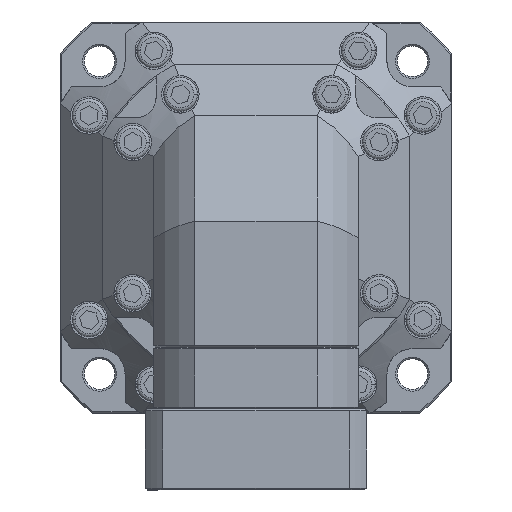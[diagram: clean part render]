
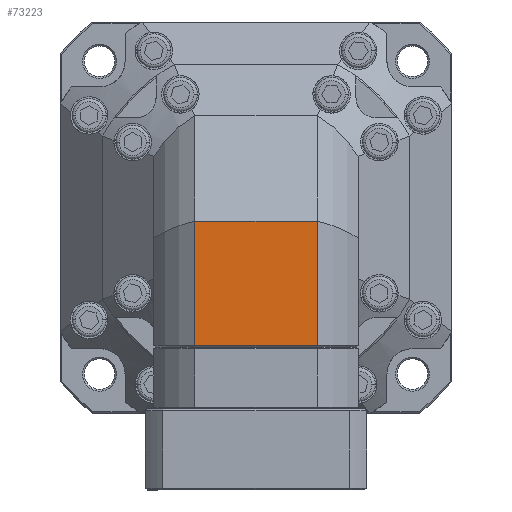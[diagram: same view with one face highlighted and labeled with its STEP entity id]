
A CAD part, front view. The second image highlights one B-rep face of the part: STEP entity #73223.
In plain terms, the highlighted planar face has unit normal (0, 1, 0).
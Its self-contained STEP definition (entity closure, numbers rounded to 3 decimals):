
#484 = CARTESIAN_POINT ( 'NONE',  ( 0., -173.611, -1. ) ) ;
#2095 = CARTESIAN_POINT ( 'NONE',  ( 18.028, -173.611, -37.5 ) ) ;
#4874 = EDGE_CURVE ( 'NONE', #100930, #43170, #56783, .T. ) ;
#5014 = LINE ( 'NONE', #95278, #50161 ) ;
#9976 = LINE ( 'NONE', #107800, #97521 ) ;
#14312 = CARTESIAN_POINT ( 'NONE',  ( -18.028, -173.611, -1. ) ) ;
#14617 = CARTESIAN_POINT ( 'NONE',  ( 18.028, -173.611, -1. ) ) ;
#15503 = AXIS2_PLACEMENT_3D ( 'NONE', #16498, #75833, #25033 ) ;
#16498 = CARTESIAN_POINT ( 'NONE',  ( -18.028, -173.611, -37.5 ) ) ;
#17538 = DIRECTION ( 'NONE',  ( 1., 0., 0. ) ) ;
#23334 = DIRECTION ( 'NONE',  ( 1., 0., 0. ) ) ;
#25033 = DIRECTION ( 'NONE',  ( 1., 0., 0. ) ) ;
#31056 = VECTOR ( 'NONE', #98974, 1000. ) ;
#33321 = VERTEX_POINT ( 'NONE', #90881 ) ;
#34210 = VECTOR ( 'NONE', #17538, 1000. ) ;
#38856 = ORIENTED_EDGE ( 'NONE', *, *, #68430, .T. ) ;
#43170 = VERTEX_POINT ( 'NONE', #14617 ) ;
#44597 = DIRECTION ( 'NONE',  ( 0., 0., 1. ) ) ;
#48390 = EDGE_CURVE ( 'NONE', #33321, #60731, #9976, .T. ) ;
#50114 = FACE_OUTER_BOUND ( 'NONE', #78677, .T. ) ;
#50161 = VECTOR ( 'NONE', #44597, 1000. ) ;
#50947 = LINE ( 'NONE', #90408, #31056 ) ;
#51947 = ORIENTED_EDGE ( 'NONE', *, *, #4874, .T. ) ;
#56783 = LINE ( 'NONE', #484, #34210 ) ;
#60731 = VERTEX_POINT ( 'NONE', #2095 ) ;
#67149 = ORIENTED_EDGE ( 'NONE', *, *, #48390, .F. ) ;
#68430 = EDGE_CURVE ( 'NONE', #33321, #100930, #5014, .T. ) ;
#73223 = ADVANCED_FACE ( 'NONE', ( #50114 ), #106916, .F. ) ;
#75833 = DIRECTION ( 'NONE',  ( 0., -1., 0. ) ) ;
#78677 = EDGE_LOOP ( 'NONE', ( #103963, #67149, #38856, #51947 ) ) ;
#90408 = CARTESIAN_POINT ( 'NONE',  ( 18.028, -173.611, -19.14 ) ) ;
#90881 = CARTESIAN_POINT ( 'NONE',  ( -18.028, -173.611, -37.5 ) ) ;
#95278 = CARTESIAN_POINT ( 'NONE',  ( -18.028, -173.611, -19.14 ) ) ;
#97521 = VECTOR ( 'NONE', #23334, 1000. ) ;
#98974 = DIRECTION ( 'NONE',  ( 0., 0., -1. ) ) ;
#100930 = VERTEX_POINT ( 'NONE', #14312 ) ;
#103963 = ORIENTED_EDGE ( 'NONE', *, *, #107081, .T. ) ;
#106916 = PLANE ( 'NONE',  #15503 ) ;
#107081 = EDGE_CURVE ( 'NONE', #43170, #60731, #50947, .T. ) ;
#107800 = CARTESIAN_POINT ( 'NONE',  ( 0., -173.611, -37.5 ) ) ;
